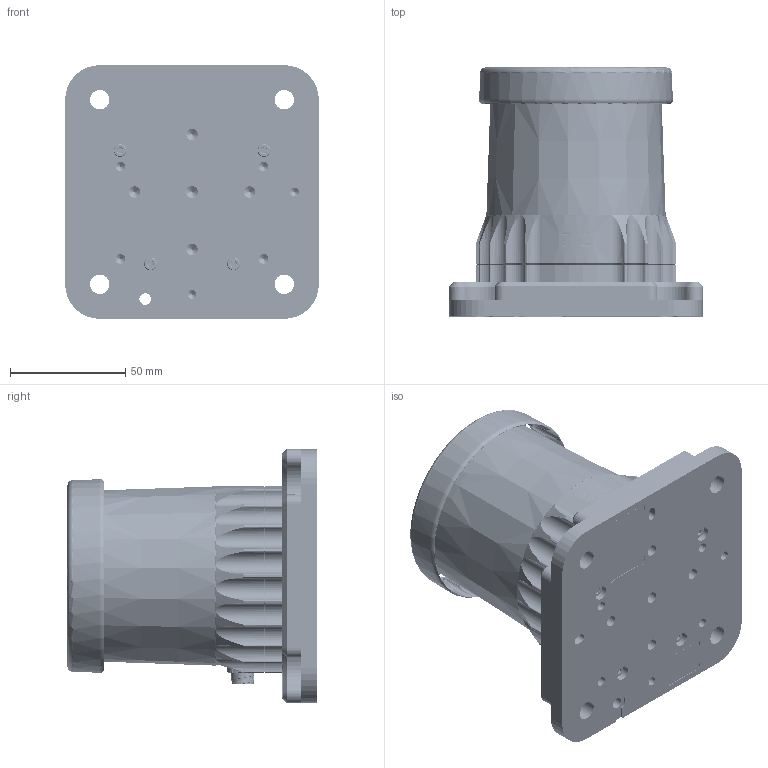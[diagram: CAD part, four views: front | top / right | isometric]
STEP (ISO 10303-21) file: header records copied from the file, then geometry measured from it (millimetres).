
FILE_DESCRIPTION (( 'STEP AP214' ), '1' );
FILE_NAME ('OS1MAX-08 b-cccc-ddddd-BH-fff-ggg.STEP', '2026-05-01T20:23:38', ( '' ), ( '' ), 'SwSTEP 2.0', 'SolidWorks 2022', '' );
FILE_SCHEMA (( 'AUTOMOTIVE_DESIGN' ));
Length unit declared in the file: millimetre
Products named in the file (1): OS1MAX-08 b-cccc-ddddd-BH-fff-ggg
Bounding box: 110 x 108.11 x 110 mm (x, y, z)
Volume: 406504.7 mm3; surface area: 113485.5 mm2
Topology: 15 solids, 16 shells, 2937 faces, 7940 edges, 4984 vertices
Faces by surface type: cylinder 954, bspline 921, cone 546, plane 328, torus 188
Entity records: 180424 total; most frequent: CARTESIAN_POINT 85959, ORIENTED_EDGE 15640, DIRECTION 9733, EDGE_CURVE 7820, VERTEX_POINT 4984, AXIS2_PLACEMENT_3D 4003, EDGE_LOOP 3100, UNCERTAINTY_MEASURE_WITH_UNIT 2954
